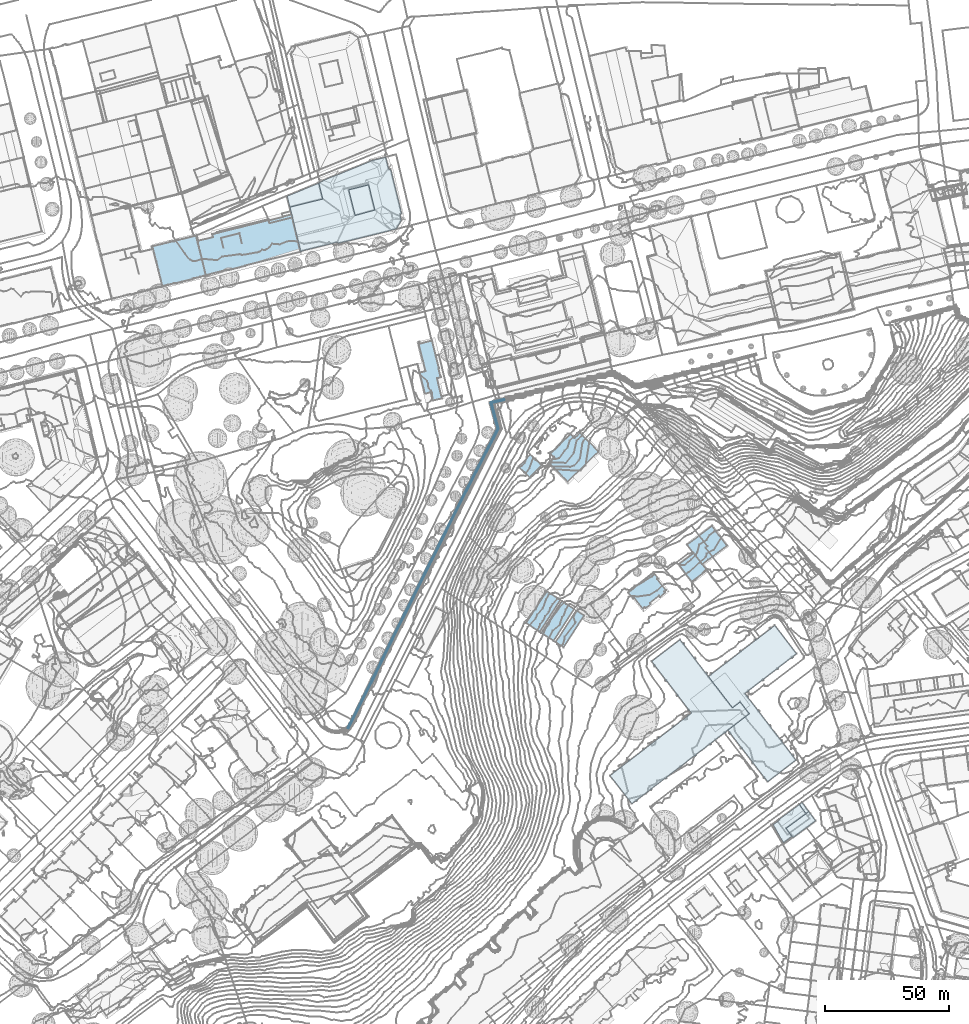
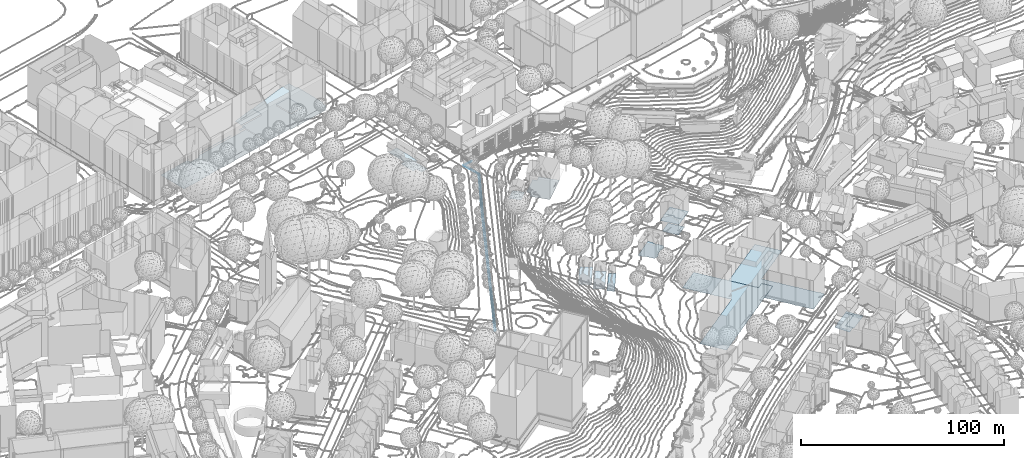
# Not in any storey, part 12 of 477: 16 footings.
"""IFC4 building model written with IfcOpenShell, lengths in metres."""

from ifc_helpers import new_model, si_unit, frame, origin_with_axes, place, context, subcontext, project, spatial, polygons, element, save


model = new_model("IFC4")

# Units and contexts
model_context = context("Model", 3, precision=1e-05, world=origin_with_axes())
body_context = subcontext(model_context, "Body", "Model", "MODEL_VIEW")
ifc_project = project(units=[si_unit("AREAUNIT", "SQUARE_METRE"), si_unit("LENGTHUNIT", "METRE")], contexts=[model_context])

# Sites, building
site_1_placement = place(None, origin_with_axes())
site_1 = spatial("IfcSite", under=ifc_project, at=site_1_placement, Name="Topoexport Site")
site_2_placement = place(site_1_placement, origin_with_axes())
site_2 = spatial("IfcSite", under=site_1, at=site_2_placement, Name="TPX_BUILDINGS")
building_1_placement = place(site_2_placement, frame((211.8297320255, 101.9383160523, 526.7541), z_axis=(0.0, 0.0, 1.0), x_axis=(1.0, 0.0, 0.0)))
building_1 = spatial("IfcBuilding", under=site_2, at=building_1_placement, Name="Building 18", CompositionType="ELEMENT")

# Footing
footing_1_placement = place(None, frame((211.8297320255, 101.9383160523, 526.7541), z_axis=(0.0, 0.0, 1.0), x_axis=(1.0, 0.0, 0.0)))
element("IfcFooting", 1, at=footing_1_placement, inside=building_1, Name="Floor 25", context=body_context, shape_type="Tessellation", body=[
    polygons([(59.6380000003, 116.7041000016, 6.9355), (69.2980000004, 136.0634999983, 6.9355), (60.0820000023, 116.4853000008, 6.9355), (78.887000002, 155.3955000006, 6.9355), (79.3300000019, 155.1757999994, 6.9355), (69.7410000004, 135.8436999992, 6.9355), (86.574000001, 170.8154000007, 6.9355), (41.1750000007, 79.504900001, 6.9354), (50.068, 97.128899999, 6.9355), (41.626000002, 79.3007999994, 6.9354), (50.5109999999, 96.9081999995, 6.9355), (98.7160000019, 210.6893999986, 6.9356), (99.3280000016, 210.3222000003, 6.9356), (101.5769999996, 200.1640000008, 6.9355), (104.3980000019, 211.9921999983, 6.9356), (104.5170000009, 211.5126999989, 6.9356), (102.1030000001, 200.1112999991, 6.9355), (87.0150000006, 170.5927000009, 6.9355), (98.7479999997, 194.5351000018, 6.9355), (99.1889999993, 194.3115000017, 6.9355)], [[[1, 2, 3]], [[4, 5, 6]], [[6, 2, 4]], [[4, 7, 5]], [[2, 6, 3]], [[8, 9, 10]], [[11, 9, 1]], [[1, 3, 11]], [[11, 10, 9]], [[12, 13, 14]], [[15, 16, 13]], [[13, 12, 15]], [[13, 17, 14]], [[18, 5, 7]], [[7, 19, 18]], [[20, 19, 14]], [[14, 17, 20]], [[20, 18, 19]]]),
])

# Building
building_2_placement = place(site_2_placement, frame((424.3367320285, 142.6277160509, 499.4686), z_axis=(0.0, 0.0, 1.0), x_axis=(1.0, 0.0, 0.0)))
building_2 = spatial("IfcBuilding", under=site_2, at=building_2_placement, Name="Building 62", CompositionType="ELEMENT")

# Footing
footing_2_placement = place(None, frame((424.3367320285, 142.6277160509, 499.4686), z_axis=(0.0, 0.0, 1.0), x_axis=(1.0, 0.0, 0.0)))
element("IfcFooting", 2, at=footing_2_placement, inside=building_2, Name="Floor 0", context=body_context, shape_type="Tessellation", body=[
    polygons([(14.3859999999, 5.2675999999, 0.064), (13.2349999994, 4.4258000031, 0.064), (13.379999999, 6.630900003, 0.064), (11.6579999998, 8.9629000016, 0.064), (10.5249999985, 8.1280000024, 0.064), (17.1279999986, 1.5527999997, -0.042), (12.754999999, -1.6932999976, -0.042), (14.3859999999, 5.2675999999, -0.042), (5.186999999, -1.4618999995, -0.042), (7.9599999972, -5.2518999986, -0.042), (6.5159999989, 5.1739000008, 0.006), (12.2349999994, 5.7920000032, 0.006), (5.4739999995, -1.2518999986, 0.0), (13.2339999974, 4.4248000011, 0.006), (4.9789999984, 4.0420000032, 0.006), (9.0339999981, 7.0303000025, 0.006), (10.5249999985, 8.1280000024, 0.006), (8.3029999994, 6.4912, 0.006), (5.8249999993, -4.0233999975, 0.006), (3.3819999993, -0.682599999, 0.006), (5.186999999, -1.4618999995, 0.0), (6.629999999, -3.4335999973, 0.006), (2.6589999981, 1.9590000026, 0.006), (2.4809999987, 2.2012000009, 0.006), (1.8729999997, 1.379900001, 0.006), (1.4049999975, 1.0351999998, 0.005), (0.935999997, 0.6905000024, 0.003), (0.4679999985, 0.3448000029, 0.002), (1.7299999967, -3.0946999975, 0.0), (0.0, 0.0, 0.0), (7.5859999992, -4.740199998, 0.0), (4.1419999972, -7.3172999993, 0.0), (3.4469999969, -6.1659999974, 0.0)], [[[1, 2, 3]], [[2, 4, 3]], [[2, 5, 4]], [[6, 7, 8]], [[9, 8, 7]], [[7, 10, 9]], [[11, 12, 13]], [[13, 12, 14]], [[11, 13, 15]], [[12, 16, 17]], [[12, 18, 16]], [[11, 18, 12]], [[19, 20, 21]], [[21, 22, 19]], [[21, 20, 13]], [[23, 24, 15]], [[23, 20, 25]], [[23, 15, 20]], [[13, 20, 15]], [[25, 20, 26]], [[27, 26, 20]], [[28, 29, 30]], [[27, 29, 28]], [[20, 19, 27]], [[19, 29, 27]], [[31, 19, 22]], [[19, 31, 32]], [[33, 29, 19]], [[19, 32, 33]]]),
])

# Building
building_3_placement = place(site_2_placement, frame((358.6987320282, 162.4100160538, 500.5526), z_axis=(0.0, 0.0, 1.0), x_axis=(1.0, 0.0, 0.0)))
building_3 = spatial("IfcBuilding", under=site_2, at=building_3_placement, Name="Building 90", CompositionType="ELEMENT")

# Footing
footing_3_placement = place(None, frame((358.6987320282, 162.4100160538, 500.5526), z_axis=(0.0, 0.0, 1.0), x_axis=(1.0, 0.0, 0.0)))
element("IfcFooting", 3, at=footing_3_placement, inside=building_3, Name="Floor 0", context=body_context, shape_type="Tessellation", body=[
    polygons([(61.7409999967, -0.8282000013, 0.0319), (62.248999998, -0.9805000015, 0.0319), (62.0029999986, -1.1689999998, 0.0319), (57.4189999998, 4.7919999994, 0.0319), (57.1629999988, 5.125, 0.0319), (57.4089999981, 5.3134000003, 0.0319), (74.8519999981, 6.2372999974, 0.0319), (63.4439999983, -2.5342000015, 0.0319), (73.368999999, 8.1669999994, 0.0319), (61.9869999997, -0.639700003, 0.0319), (57.6649999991, 4.9803999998, 0.0319), (69.0589999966, 13.7713999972, 0.0319), (73.6429999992, 7.8094999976, 0.0319), (48.5279999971, 16.8631999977, 0.032), (48.0209999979, 17.0155999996, 0.032), (48.2659999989, 17.2049999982, 0.032), (48.2829999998, 16.6747999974, 0.032), (53.0989999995, 10.9188999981, 0.032), (52.8369999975, 11.2588, 0.032), (64.4949999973, 19.7088999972, 0.032), (52.8539999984, 10.7294999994, 0.032), (56.0319999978, 24.8475999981, 0.032), (47.4529999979, 18.2626999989, 0.032), (68.8029999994, 14.1044999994, 0.0319), (52.5920000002, 11.0692999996, 0.032), (64.2329999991, 20.0497999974, 0.032), (73.8889999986, 7.998999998, 0.0319), (69.0489999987, 14.2938999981, 0.0319), (73.6149999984, 8.3553999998, 0.0319), (69.3049999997, 13.9608999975, 0.0319), (59.9229999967, 25.6551999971, 0.032), (55.3579999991, 31.5936999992, 0.032), (59.6549999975, 26.0047999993, 0.032), (55.6039999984, 31.7831999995, 0.032), (55.0899999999, 31.9422999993, 0.032), (60.1689999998, 25.8446999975, 0.032), (64.4780000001, 20.2381999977, 0.032), (64.7399999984, 19.8973999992, 0.032), (59.9009999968, 26.1932999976, 0.032), (55.3359999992, 32.1317999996, 0.032), (52.379999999, 29.6044999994, 0.032), (49.2740000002, 27.2206999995, 0.032), (40.9849999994, 40.9129999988, 0.032), (54.2729999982, 33.0047999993, 0.032), (46.5899999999, 45.2215999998, 0.032), (55.3229999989, 33.8125, 0.032), (55.6719999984, 34.0810000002, 0.032), (40.6439999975, 40.6503999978, 0.032), (39.5829999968, 39.8338999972, 0.032), (55.5119999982, 33.566399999, 0.032), (61.2839999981, 38.3954999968, 0.032), (46.9299999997, 45.4833999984, 0.032), (61.4729999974, 38.1493999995, 0.032), (61.6329999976, 38.6639999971, 0.032), (61.8219999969, 38.4178999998, 0.032), (55.8609999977, 33.8348999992, 0.032), (40.4549999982, 40.8963999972, 0.032), (40.7960000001, 41.1590999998, 0.032), (52.5429999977, 49.7997999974, 0.032), (46.4009999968, 45.4676999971, 0.032), (46.7409999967, 45.7294999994, 0.032), (52.3539999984, 50.0458999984, 0.032), (52.8829999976, 50.061499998, 0.032), (67.4100000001, 42.7157999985, 0.032), (67.2209999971, 42.9618999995, 0.032), (67.7509999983, 42.9774999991, 0.032), (67.561999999, 43.2236000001, 0.032), (73.1659999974, 47.5331999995, 0.032), (58.8279999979, 54.6338, 0.032), (73.3549999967, 47.2870999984, 0.032), (73.6949999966, 47.5487999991, 0.032), (73.5059999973, 47.7949000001, 0.032), (64.4239999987, 58.936499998, 0.032), (64.7649999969, 59.1991999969, 0.032), (75.0839999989, 49.0077999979, 0.032), (58.4869999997, 54.3719999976, 0.032), (58.2979999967, 54.6180999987, 0.032), (58.6389999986, 54.8797999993, 0.032), (64.2349999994, 59.182599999, 0.032), (66.3319999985, 60.4032999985, 0.032), (64.5759999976, 59.4442999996, 0.032), (52.6939999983, 50.307599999, 0.032), (33.925999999, 47.1952999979, 0.0), (34.1879999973, 46.8544999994, 0.0), (22.5350000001, 38.422799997, 0.0), (29.6079999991, 53.3241999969, 0.0), (29.8699999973, 52.9824000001, 0.0), (29.623999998, 52.7938999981, 0.0), (29.3619999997, 53.1347000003, 0.0), (17.9679999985, 44.3729999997, 0.0), (16.754999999, 45.9540999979, 0.0), (28.1559999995, 54.7049999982, 0.0), (18.2299999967, 44.0321999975, 0.0), (17.9839999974, 43.8426999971, 0.0), (34.1719999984, 47.3847000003, 0.0), (39.0099999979, 41.0887999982, 0.0), (38.7639999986, 40.8993999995, 0.0), (38.7479999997, 41.4296999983, 0.0), (38.5019999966, 41.2412, 0.0), (27.0999999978, 32.4736000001, 0.0), (22.7960000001, 38.0819999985, 0.0), (31.6600000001, 26.5321999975, 0.0), (27.3619999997, 32.1327999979, 0.0), (31.9219999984, 26.1903999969, 0.0), (27.1159999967, 31.9432999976, 0.0), (34.4339999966, 47.0438999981, 0.0), (22.2889999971, 38.2333999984, 0.0), (17.7219999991, 44.1835999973, 0.0), (22.549999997, 37.8924999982, 0.0), (31.675999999, 26.0018999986, 0.0), (26.8539999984, 32.2850999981, 0.0), (1.737999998, 1.7245999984, 0.0), (1.5869999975, 1.2176999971, 0.0), (1.3979999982, 1.4637999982, 0.0), (31.4139999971, 26.3426999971, 0.0), (19.7899999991, 15.1903999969, 0.0), (19.2599999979, 15.1747999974, 0.0), (19.6009999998, 15.436499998, 0.0), (25.3899999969, 19.4881999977, 0.0), (25.2009999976, 19.7342999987, 0.0), (25.5419999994, 19.9969999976, 0.0), (7.8769999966, 6.0458999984, 0.0), (7.3469999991, 6.0292999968, 0.0), (7.6879999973, 6.2919999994, 0.0), (13.4839999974, 10.3495999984, 0.0), (13.2949999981, 10.5956999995, 0.0), (13.6369999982, 10.8574000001, 0.0), (8.7929999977, -11.4101999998, 0.0), (0.0, 0.0, 0.0), (1.9269999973, 1.4784999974, 0.0), (31.4829999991, 24.556599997, 0.0), (31.6719999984, 24.3104999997, 0.0), (31.1419999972, 24.2949000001, 0.0), (32.737999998, 25.1278999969, 0.0), (40.4329999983, 12.875, 0.0), (40.1629999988, 12.6678999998, 0.0), (49.2740000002, 27.2206999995, 0.0), (46.0409999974, 17.1787, 0.0), (52.379999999, 29.6044999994, 0.0), (56.0319999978, 24.8475999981, 0.0), (31.3310000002, 24.0487999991, 0.0), (34.1499999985, 8.052699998, 0.0), (25.7309999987, 19.75, 0.0), (34.498999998, 8.3202999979, 0.0), (34.3389999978, 7.806599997, 0.0), (28.549999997, 3.753899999, 0.0), (46.3899999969, 17.4463, 0.0), (46.2299999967, 16.932599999, 0.0), (46.5789999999, 17.2010999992, 0.0), (34.6879999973, 8.0751999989, 0.0), (40.3519999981, 12.4217999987, 0.0), (40.6219999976, 12.628899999, 0.0), (16.6519999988, -5.3780000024, 0.0), (13.8259999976, 10.6112999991, 0.0), (22.2599999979, -1.0743000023, 0.0), (19.4489999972, 14.9287, 0.0), (22.6009999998, -0.8125, 0.0), (7.5359999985, 5.7840999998, 0.0), (10.3619999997, -10.2061000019, 0.0), (10.7029999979, -9.9444000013, 0.0), (10.8919999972, -10.1905000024, 0.0), (16.310999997, -5.6407000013, 0.0), (16.8409999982, -5.6240999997, 0.0), (28.2089999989, 3.4921999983, 0.0), (28.7390000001, 3.5077999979, 0.0), (28.3979999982, 3.2460999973, 0.0), (22.7899999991, -1.058600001, 0.0), (10.550999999, -10.452200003, 0.0), (16.5, -5.8868000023, 0.0), (22.4489999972, -1.3203000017, 0.0)], [[[1, 2, 3]], [[4, 5, 6]], [[7, 8, 2]], [[9, 10, 11]], [[2, 1, 10]], [[11, 4, 6]], [[12, 11, 6]], [[13, 2, 10]], [[14, 15, 16]], [[14, 17, 15]], [[18, 19, 20]], [[21, 19, 18]], [[22, 16, 23]], [[19, 14, 22]], [[16, 22, 14]], [[18, 24, 6]], [[21, 25, 19]], [[22, 26, 19]], [[9, 27, 13]], [[11, 12, 9]], [[12, 24, 28]], [[6, 24, 12]], [[18, 20, 24]], [[10, 9, 13]], [[9, 29, 27]], [[28, 30, 12]], [[2, 13, 7]], [[22, 31, 26]], [[32, 33, 22]], [[31, 22, 33]], [[34, 32, 35]], [[19, 26, 20]], [[31, 33, 36]], [[37, 38, 26]], [[36, 33, 39]], [[40, 34, 35]], [[32, 41, 35]], [[38, 20, 26]], [[22, 41, 32]], [[42, 43, 41]], [[44, 45, 46]], [[35, 41, 44]], [[46, 45, 47]], [[48, 42, 49]], [[46, 47, 50]], [[51, 47, 52]], [[53, 54, 55]], [[50, 47, 56]], [[51, 54, 53]], [[43, 42, 48]], [[48, 57, 43]], [[44, 41, 43]], [[43, 57, 58]], [[45, 44, 43]], [[51, 52, 59]], [[52, 60, 61]], [[45, 60, 52]], [[51, 59, 54]], [[47, 45, 52]], [[59, 62, 63]], [[64, 65, 66]], [[67, 66, 65]], [[54, 63, 65]], [[68, 67, 69]], [[70, 68, 71]], [[72, 68, 73]], [[72, 74, 75]], [[71, 68, 72]], [[65, 76, 67]], [[68, 69, 73]], [[76, 69, 67]], [[77, 69, 76]], [[59, 63, 54]], [[77, 78, 69]], [[72, 73, 74]], [[74, 73, 79]], [[80, 75, 74]], [[81, 74, 79]], [[63, 76, 65]], [[82, 63, 62]], [[83, 84, 85]], [[86, 87, 88]], [[89, 90, 91]], [[91, 92, 89]], [[89, 88, 90]], [[93, 88, 83]], [[83, 85, 93]], [[90, 93, 94]], [[93, 90, 88]], [[86, 88, 89]], [[95, 84, 83]], [[96, 97, 98]], [[97, 99, 98]], [[97, 100, 99]], [[101, 84, 99]], [[100, 101, 99]], [[101, 85, 84]], [[97, 102, 103]], [[100, 97, 103]], [[97, 104, 102]], [[103, 105, 100]], [[84, 95, 106]], [[107, 85, 101]], [[90, 94, 108]], [[109, 107, 101]], [[104, 110, 102]], [[100, 105, 111]], [[112, 113, 114]], [[115, 102, 110]], [[116, 117, 118]], [[119, 120, 121]], [[122, 123, 124]], [[125, 126, 127]], [[113, 128, 129]], [[113, 112, 130]], [[131, 132, 133]], [[97, 134, 104]], [[132, 135, 136]], [[134, 137, 138]], [[134, 97, 137]], [[137, 139, 140]], [[134, 135, 132]], [[136, 141, 132]], [[116, 119, 142]], [[121, 143, 119]], [[119, 143, 142]], [[142, 143, 144]], [[141, 136, 144]], [[142, 144, 145]], [[143, 141, 144]], [[116, 142, 146]], [[132, 141, 133]], [[138, 147, 148]], [[135, 134, 138]], [[137, 140, 147]], [[147, 138, 137]], [[147, 149, 148]], [[145, 144, 150]], [[135, 151, 136]], [[152, 151, 135]], [[125, 153, 122]], [[125, 154, 155]], [[125, 127, 154]], [[154, 156, 157]], [[155, 153, 125]], [[122, 158, 123]], [[153, 158, 122]], [[159, 128, 113]], [[130, 158, 160]], [[113, 130, 159]], [[159, 160, 161]], [[159, 130, 160]], [[160, 158, 162]], [[153, 162, 158]], [[163, 162, 153]], [[164, 157, 156]], [[156, 146, 164]], [[146, 165, 164]], [[164, 165, 166]], [[167, 155, 157]], [[168, 159, 161]], [[162, 163, 169]], [[167, 170, 155]], [[155, 154, 157]], [[116, 146, 156]], [[156, 117, 116]]]),
])

# Building
building_4_placement = place(site_2_placement, frame((331.0367320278, 219.7098160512, 508.5819), z_axis=(0.0, 0.0, 1.0), x_axis=(1.0, 0.0, 0.0)))
building_4 = spatial("IfcBuilding", under=site_2, at=building_4_placement, Name="Building 91", CompositionType="ELEMENT")

# Footing
footing_4_placement = place(None, frame((331.0367320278, 219.7098160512, 508.5819), z_axis=(0.0, 0.0, 1.0), x_axis=(1.0, 0.0, 0.0)))
element("IfcFooting", 4, at=footing_4_placement, inside=building_4, Name="Floor 0", context=body_context, shape_type="Tessellation", body=[
    polygons([(8.3099999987, 12.7871000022, 0.0), (10.1079999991, 11.6181000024, 0.0), (0.0, 0.0, 0.0), (13.1989999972, 9.6084000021, 0.0), (1.7980000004, -1.1689999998, 0.0), (4.8889999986, -3.1777999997, 0.0)], [[[1, 2, 3]], [[2, 4, 5]], [[5, 3, 2]], [[4, 6, 5]]]),
])

# Building
building_5_placement = place(site_2_placement, frame((336.8067320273, 215.9607160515, 507.462), z_axis=(0.0, 0.0, 1.0), x_axis=(1.0, 0.0, 0.0)))
building_5 = spatial("IfcBuilding", under=site_2, at=building_5_placement, Name="Building 92", CompositionType="ELEMENT")

# Footing
footing_5_placement = place(None, frame((336.8067320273, 215.9607160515, 507.462), z_axis=(0.0, 0.0, 1.0), x_axis=(1.0, 0.0, 0.0)))
element("IfcFooting", 5, at=footing_5_placement, inside=building_5, Name="Floor 0", context=body_context, shape_type="Tessellation", body=[
    polygons([(3.1429999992, -2.0438999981, 0.0), (1.5850000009, -1.0311999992, 0.0), (11.4519999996, 10.7422000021, 0.0), (0.0, 0.0, 0.0), (9.8939999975, 11.754900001, 0.0), (8.3090000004, 12.7862000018, 0.0)], [[[1, 2, 3]], [[2, 4, 5]], [[3, 2, 5]], [[5, 4, 6]]]),
])

# Building
building_6_placement = place(site_2_placement, frame((324.9327320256, 223.6766160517, 510.9427), z_axis=(0.0, 0.0, 1.0), x_axis=(1.0, 0.0, 0.0)))
building_6 = spatial("IfcBuilding", under=site_2, at=building_6_placement, Name="Building 93", CompositionType="ELEMENT")

# Footing
footing_6_placement = place(None, frame((324.9327320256, 223.6766160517, 510.9427), z_axis=(0.0, 0.0, 1.0), x_axis=(1.0, 0.0, 0.0)))
element("IfcFooting", 6, at=footing_6_placement, inside=building_6, Name="Floor 0", context=body_context, shape_type="Tessellation", body=[
    polygons([(0.0, 0.0, 0.0), (8.3100000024, 12.7871000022, 0.0), (2.1440000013, -1.3925999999, 0.0), (10.4539999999, 11.3935000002, 0.0), (5.4330000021, -3.5313000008, 0.0), (13.7430000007, 9.2558000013, 0.0)], [[[1, 2, 3]], [[3, 4, 5]], [[4, 3, 2]], [[6, 5, 4]]]),
])

# Building
building_7_placement = place(site_2_placement, frame((366.0957320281, 236.0047160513, 506.5151), z_axis=(0.0, 0.0, 1.0), x_axis=(1.0, 0.0, 0.0)))
building_7 = spatial("IfcBuilding", under=site_2, at=building_7_placement, Name="Building 95", CompositionType="ELEMENT")

# Footing
footing_7_placement = place(None, frame((366.0957320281, 236.0047160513, 506.5151), z_axis=(0.0, 0.0, 1.0), x_axis=(1.0, 0.0, 0.0)))
element("IfcFooting", 7, at=footing_7_placement, inside=building_7, Name="Floor 0", context=body_context, shape_type="Tessellation", body=[
    polygons([(2.3599999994, -2.1034999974, 0.0), (1.9459999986, -2.4345999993, 0.0), (0.0, 0.0, 0.0), (0.2569999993, 0.2050999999, 0.0), (6.1889999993, -6.1855999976, 0.0), (5.8429999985, -6.4618999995, 0.0), (6.623999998, -5.8378999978, 0.0), (8.6779999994, -4.1952999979, 0.0), (6.9679999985, -6.2665999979, 0.0), (9.0219999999, -4.625, 0.0), (12.3489999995, -1.2597999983, 0.0), (11.6629999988, 5.3350000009, 0.0), (9.9329999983, 7.9433000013, 0.0), (10.1539999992, 8.1191000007, 0.0), (12.0999999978, 5.6845999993, 0.0), (14.8279999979, -0.0849999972, 0.0), (12.742999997, -1.7520000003, 0.0), (14.4340000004, 0.4072000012, 0.0), (14.7960000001, 0.6963, 0.0), (15.1469999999, 0.9766000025, 0.0)], [[[1, 2, 3]], [[1, 3, 4]], [[1, 5, 6]], [[5, 1, 7]], [[8, 7, 1]], [[9, 8, 10]], [[7, 8, 9]], [[11, 8, 1]], [[4, 12, 1]], [[12, 13, 14]], [[11, 1, 12]], [[12, 14, 15]], [[16, 17, 11]], [[11, 18, 16]], [[12, 19, 18]], [[18, 11, 12]], [[19, 12, 20]], [[4, 13, 12]]]),
])

# Building
building_8_placement = place(site_2_placement, frame((389.7587320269, 255.2674160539, 507.648), z_axis=(0.0, 0.0, 1.0), x_axis=(1.0, 0.0, 0.0)))
building_8 = spatial("IfcBuilding", under=site_2, at=building_8_placement, Name="Building 96", CompositionType="ELEMENT")

# Footing
footing_8_placement = place(None, frame((389.7587320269, 255.2674160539, 507.648), z_axis=(0.0, 0.0, 1.0), x_axis=(1.0, 0.0, 0.0)))
element("IfcFooting", 8, at=footing_8_placement, inside=building_8, Name="Floor 0", context=body_context, shape_type="Tessellation", body=[
    polygons([(0.0, 0.0, 0.0), (0.0540000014, 0.0399999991, 0.0), (2.2520000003, -2.9736000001, 0.0), (2.686999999, -3.3447000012, 0.0), (2.6359999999, -3.380900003, 0.0), (4.9050000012, 3.7089999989, 0.0), (2.5890000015, -3.4180000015, 0.0), (7.436999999, -1.125, 0.0), (3.1349999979, -3.9346000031, 0.0), (8.5309999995, -6.0830000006, 0.0), (6.1270000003, -7.884800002, 0.0), (8.1559999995, -0.5850000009, 0.0), (10.2269999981, -4.8115000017, 0.0)], [[[1, 2, 3]], [[4, 5, 3]], [[6, 4, 3]], [[5, 7, 3]], [[4, 8, 9]], [[10, 11, 9]], [[2, 6, 3]], [[6, 12, 8]], [[10, 9, 8]], [[13, 10, 8]], [[8, 4, 6]]]),
])

# Building
building_9_placement = place(site_2_placement, frame((394.6637320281, 258.9764160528, 507.648), z_axis=(0.0, 0.0, 1.0), x_axis=(1.0, 0.0, 0.0)))
building_9 = spatial("IfcBuilding", under=site_2, at=building_9_placement, Name="Building 97", CompositionType="ELEMENT")

# Footing
footing_9_placement = place(None, frame((394.6637320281, 258.9764160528, 507.648), z_axis=(0.0, 0.0, 1.0), x_axis=(1.0, 0.0, 0.0)))
element("IfcFooting", 9, at=footing_9_placement, inside=building_9, Name="Floor 0", context=body_context, shape_type="Tessellation", body=[
    polygons([(1.9109999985, 1.4510999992, 0.0), (5.0969999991, 3.8691000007, 0.0), (8.1529999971, -0.1640999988, 0.0), (11.1429999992, -4.1103999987, 0.0), (5.3219999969, -8.5205000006, 0.0), (3.2509999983, -4.2939999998, 0.0), (2.5319999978, -4.8339999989, 0.0), (0.0, 0.0, 0.0)], [[[1, 2, 3]], [[3, 4, 5]], [[6, 3, 5]], [[5, 7, 6]], [[8, 1, 6]], [[6, 1, 3]]]),
])

# Building
building_10_placement = place(site_2_placement, frame((386.3977320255, 247.3445160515, 507.147), z_axis=(0.0, 0.0, 1.0), x_axis=(1.0, 0.0, 0.0)))
building_10 = spatial("IfcBuilding", under=site_2, at=building_10_placement, Name="Building 98", CompositionType="ELEMENT")

# Footing
footing_10_placement = place(None, frame((386.3977320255, 247.3445160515, 507.147), z_axis=(0.0, 0.0, 1.0), x_axis=(1.0, 0.0, 0.0)))
element("IfcFooting", 10, at=footing_10_placement, inside=building_10, Name="Floor 0", context=body_context, shape_type="Tessellation", body=[
    polygons([(9.4880000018, 0.0381000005, 0.0), (2.3630000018, -3.1268999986, 0.0), (8.6750000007, 1.1114000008, 0.0), (11.4150000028, -2.2997999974, 0.0), (9.5879999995, 0.1182000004, 0.0), (5.9979999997, 4.5410000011, 0.0), (6.0480000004, 4.5782000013, 0.0), (5.5989999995, 4.9678000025, 0.0), (5.6469999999, 5.004900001, 0.0), (5.9510000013, 4.504900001, 0.0), (0.0, 0.0, 0.0), (5.2630000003, -6.9628999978, 0.0)], [[[1, 2, 3]], [[4, 1, 5]], [[3, 6, 7]], [[6, 8, 9]], [[10, 6, 3]], [[10, 3, 11]], [[8, 6, 10]], [[2, 4, 12]], [[2, 11, 3]], [[2, 1, 4]]]),
])

# Building
building_11_placement = place(site_2_placement, frame((281.5977320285, 336.7850160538, 537.4764), z_axis=(0.0, 0.0, 1.0), x_axis=(1.0, 0.0, 0.0)))
building_11 = spatial("IfcBuilding", under=site_2, at=building_11_placement, Name="Building 100", CompositionType="ELEMENT")

# Footing
footing_11_placement = place(None, frame((281.5977320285, 336.7850160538, 537.4764), z_axis=(0.0, 0.0, 1.0), x_axis=(1.0, 0.0, 0.0)))
element("IfcFooting", 11, at=footing_11_placement, inside=building_11, Name="Floor 0", context=body_context, shape_type="Tessellation", body=[
    polygons([(5.799999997, -23.5655000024, -0.0001), (4.9839999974, -20.193400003, -0.0001), (9.5009999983, -22.6465000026, -0.0001), (0.5489999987, -12.2745000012, -0.0001), (2.6399999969, -20.7715000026, -0.0001), (2.879999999, -11.7002000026, -0.0001), (7.5019999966, -14.5274000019, -0.0001), (9.1529999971, -14.121100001, -0.0001), (8.9499999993, -14.005900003, -0.0001), (9.1149999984, -13.9659000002, -0.0001), (5.5299999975, 0.6004999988, 0.0), (0.0, 0.0, 0.0), (0.612999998, -0.6094000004, 0.0), (0.436999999, 0.1074000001, 0.0), (8.0949999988, -10.5293000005, -0.0001), (8.2589999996, -10.4893000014, -0.0001)], [[[1, 2, 3]], [[4, 2, 5]], [[2, 6, 7]], [[2, 7, 3]], [[8, 9, 10]], [[7, 9, 8]], [[6, 2, 4]], [[6, 11, 7]], [[12, 13, 6]], [[13, 12, 14]], [[13, 11, 6]], [[15, 11, 16]], [[15, 9, 7]], [[7, 11, 15]]]),
])

# Building
building_12_placement = place(site_2_placement, frame((334.3647320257, 288.1229160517, 521.6208), z_axis=(0.0, 0.0, 1.0), x_axis=(1.0, 0.0, 0.0)))
building_12 = spatial("IfcBuilding", under=site_2, at=building_12_placement, Name="Building 101", CompositionType="ELEMENT")

# Footing
footing_12_placement = place(None, frame((334.3647320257, 288.1229160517, 521.6208), z_axis=(0.0, 0.0, 1.0), x_axis=(1.0, 0.0, 0.0)))
element("IfcFooting", 12, at=footing_12_placement, inside=building_12, Name="Floor 0", context=body_context, shape_type="Tessellation", body=[
    polygons([(15.0030000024, 9.4843000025, 0.0), (19.6040000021, 4.7998000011, -0.0001), (4.9189999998, -5.0293000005, -0.0001), (12.4539999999, 12.0800000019, 0.0), (0.0, 0.0, 0.0), (12.3450000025, 12.1904000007, 0.0), (10.1410000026, 10.0252999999, 0.0), (5.5510000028, 8.8242000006, 0.0), (9.7870000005, 10.3857000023, 0.0), (8.4849999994, 11.7118999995, 0.0), (2.0670000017, 2.0810000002, 0.0), (19.7280000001, 4.6728000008, -0.0001), (2.3610000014, -2.4131000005, 0.0), (7.3359999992, -7.4990999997, -0.0001), (3.1440000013, 6.4550000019, 0.0), (1.5490000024, 2.6093000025, 0.0), (0.4150000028, 3.7675000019, 0.0)], [[[1, 2, 3]], [[4, 1, 5]], [[6, 4, 7]], [[7, 8, 9]], [[8, 10, 9]], [[4, 5, 7]], [[11, 8, 7]], [[2, 12, 3]], [[13, 1, 3]], [[1, 13, 5]], [[12, 14, 3]], [[15, 16, 17]], [[8, 16, 15]], [[11, 16, 8]], [[11, 7, 5]]]),
])

# Building
building_13_placement = place(site_2_placement, frame((321.8457320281, 286.6092160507, 525.7514), z_axis=(0.0, 0.0, 1.0), x_axis=(1.0, 0.0, 0.0)))
building_13 = spatial("IfcBuilding", under=site_2, at=building_13_placement, Name="Building 102", CompositionType="ELEMENT")

# Footing
footing_13_placement = place(None, frame((321.8457320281, 286.6092160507, 525.7514), z_axis=(0.0, 0.0, 1.0), x_axis=(1.0, 0.0, 0.0)))
element("IfcFooting", 13, at=footing_13_placement, inside=building_13, Name="Floor 0", context=body_context, shape_type="Tessellation", body=[
    polygons([(9.254999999, 0.5937000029, 0.0), (4.4759999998, -4.3046999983, 0.0), (7.0059999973, 2.7568000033, 0.0), (2.4149999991, -2.3222999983, 0.0), (4.7419999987, 4.9326000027, 0.0), (0.0, 0.0, 0.0)], [[[1, 2, 3]], [[2, 4, 3]], [[5, 3, 4]], [[4, 6, 5]]]),
])

# Building
building_14_placement = place(site_2_placement, frame((228.7347320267, 395.6180160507, 538.6455), z_axis=(0.0, 0.0, 1.0), x_axis=(1.0, 0.0, 0.0)))
building_14 = spatial("IfcBuilding", under=site_2, at=building_14_placement, Name="Building 199", CompositionType="ELEMENT")

# Footing
footing_14_placement = place(None, frame((228.7347320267, 395.6180160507, 538.6455), z_axis=(0.0, 0.0, 1.0), x_axis=(1.0, 0.0, 0.0)))
element("IfcFooting", 14, at=footing_14_placement, inside=building_14, Name="Floor 0", context=body_context, shape_type="Tessellation", body=[
    polygons([(1.1110000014, -4.4423999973, 0.0), (1.4510000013, -6.2812999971, -0.0001), (1.436999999, -6.2275999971, -0.0001), (0.0, 0.0, 0.0), (1.943, -7.923899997, -0.0001), (12.7360000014, 5.2226000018, 0.0), (12.7609999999, 5.0957000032, 0.0), (14.3409999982, -1.1757999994, 0.0), (32.8029999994, 4.5224000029, -0.163), (35.2960000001, -5.6269999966, -0.1632), (24.7540000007, 2.5117000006, -0.163), (27.3429999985, -7.7919999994, -0.1632), (45.875, -9.3886999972, -0.6581), (41.7179999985, -13.7480999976, -0.6581), (45.7699999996, -8.9706999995, -0.6581), (45.5830000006, -8.2167999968, -0.6581), (20.3409999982, -18.5625, -0.6581), (45.432, -7.6074999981, -0.6581), (27.3429999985, -7.7919999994, -0.6581), (45.5789999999, -7.5781999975, -0.6581), (45.5009999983, -7.2392999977, -0.6581), (43.6389999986, -13.2792999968, -0.6581), (44.7459999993, -11.8320999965, -0.6581), (43.8099999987, -13.3740999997, -0.6581), (43.5269999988, -13.3066999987, -0.6581), (45.9140000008, -9.5478999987, -0.6581), (46.074000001, -9.6445999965, -0.6581), (43.3740000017, -13.3447999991, -0.6581), (42.9640000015, -13.4443999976, -0.6581), (35.2960000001, -5.6269999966, -0.6581), (41.7010000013, 10.7568000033, -0.658), (46.0969999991, -7.0956999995, -0.6581), (32.8029999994, 4.5224000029, -0.658), (41.0969999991, 10.6133000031, -0.658), (40.8720000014, 10.9052000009, -0.658), (41.0150000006, 10.9521000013, -0.658), (40.7969999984, 11.2109000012, -0.658), (22.6240000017, 9.5371000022, -0.6579), (40.4200000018, 12.7412, -0.658), (40.745000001, 11.4199000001, -0.658), (39.3669999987, 15.5918000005, -0.658), (39.6970000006, 15.6728000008, -0.658), (33.7459999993, 14.1084000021, -0.6579), (33.7239999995, 14.2002000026, -0.6579), (34.006000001, 14.2695000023, -0.6579), (41.7430000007, -13.8838, -0.6581), (20.4659999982, -19.0888999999, -0.6581), (19.8630000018, -18.6809, -0.6581), (19.8471000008, -18.684799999, -0.6581), (2.6319999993, -10.807599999, -0.6581), (14.3409999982, -1.1757999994, -0.658), (3.9670000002, -16.4013999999, -0.6581), (24.7540000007, 2.5117000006, -0.658), (5.686999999, -22.1630999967, -0.6581), (5.0789999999, -21.0566999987, -0.6581), (16.0890000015, -19.6074999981, -0.6581), (5.4219999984, -22.4912, -0.6581), (5.743999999, -22.4120999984, -0.6581), (1.1110000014, -4.4423999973, -0.6579), (3.3779999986, -13.9375, -0.6581), (3.8020000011, -15.7118999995, -0.6581), (21.1499999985, 8.9306000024, -0.6579), (20.0040000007, 8.4599000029, -0.6579), (14.3020000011, 6.0175999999, -0.6579), (21.9149999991, 9.2451000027, -0.6579), (32.6750000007, 13.6689000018, -0.6579), (13.1319999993, 5.5293000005, -0.6579), (12.7609999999, 5.0957000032, -0.6579), (12.7109999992, 5.3545000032, -0.6579), (14.2630000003, 6.2158000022, -0.6579), (19.9609999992, 8.5508000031, -0.6579)], [[[1, 2, 3]], [[3, 4, 1]], [[2, 1, 5]], [[6, 7, 4]], [[1, 7, 8]], [[1, 4, 7]], [[9, 10, 11]], [[12, 11, 10]], [[13, 14, 15]], [[16, 15, 17]], [[18, 16, 19]], [[20, 18, 21]], [[22, 23, 24]], [[25, 23, 22]], [[26, 23, 14]], [[26, 27, 23]], [[23, 25, 28]], [[23, 28, 29]], [[14, 23, 29]], [[14, 13, 26]], [[17, 15, 14]], [[18, 30, 21]], [[30, 31, 32]], [[31, 33, 34]], [[34, 35, 36]], [[33, 35, 34]], [[32, 21, 30]], [[37, 35, 38]], [[39, 40, 38]], [[38, 40, 37]], [[39, 41, 42]], [[39, 43, 41]], [[43, 44, 45]], [[45, 41, 43]], [[46, 47, 14]], [[19, 16, 17]], [[48, 49, 17]], [[19, 30, 18]], [[50, 51, 19]], [[52, 19, 49]], [[49, 19, 17]], [[19, 51, 53]], [[47, 17, 14]], [[54, 55, 56]], [[57, 54, 58]], [[57, 55, 54]], [[51, 50, 59]], [[60, 50, 19]], [[19, 61, 60]], [[61, 19, 52]], [[55, 52, 56]], [[49, 56, 52]], [[33, 53, 38]], [[30, 33, 31]], [[62, 53, 63]], [[64, 63, 53]], [[53, 62, 65]], [[66, 39, 38]], [[39, 66, 43]], [[38, 53, 65]], [[35, 33, 38]], [[67, 68, 69]], [[64, 68, 67]], [[70, 71, 64]], [[63, 64, 71]], [[64, 53, 68]], [[51, 68, 53]]]),
])

# Building
building_15_placement = place(site_2_placement, frame((192.1757320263, 379.5145160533, 538.5554), z_axis=(0.0, 0.0, 1.0), x_axis=(1.0, 0.0, 0.0)))
building_15 = spatial("IfcBuilding", under=site_2, at=building_15_placement, Name="Building 229", CompositionType="ELEMENT")

# Footing
footing_15_placement = place(None, frame((192.1757320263, 379.5145160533, 538.5554), z_axis=(0.0, 0.0, 1.0), x_axis=(1.0, 0.0, 0.0)))
element("IfcFooting", 15, at=footing_15_placement, inside=building_15, Name="Floor 0", context=body_context, shape_type="Tessellation", body=[
    polygons([(0.8410000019, -1.9375, -0.9389), (1.8319999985, -7.3956000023, -0.9389), (0.2219999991, -0.8955000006, -0.9389), (0.5670000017, -0.808600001, -0.9389), (4.2919999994, -15.683600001, -0.9389), (3.9620000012, -15.9922000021, -0.9389), (6.4389999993, 0.6464000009, -0.9389), (6.5610000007, 0.6952999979, -0.9389), (6.7259999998, -0.5030000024, -0.9389), (39.936999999, 2.1659999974, -0.939), (19.6649999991, -11.9814999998, -0.939), (11.9180000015, -13.8038000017, -0.939), (4.3449999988, -15.8975000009, -0.9389), (12.7970000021, -13.7930000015, -0.939), (12.7780000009, -13.7002000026, -0.939), (19.6889999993, -12.0868999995, -0.939), (11.9349999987, -13.9004000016, -0.939), (29.2349999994, 6.1952999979, -0.9389), (34.8520000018, 7.5946999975, -0.9389), (20.4829999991, -11.683600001, -0.939), (38.3819999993, 8.6805999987, -0.9389), (34.8090000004, 7.7840999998, -0.9389), (41.6380000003, -4.9532000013, -0.939), (36.9420000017, -7.6289000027, -0.939), (20.504999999, -11.7919999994, -0.939), (41.9809999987, -6.3877000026, -0.939), (29.1900000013, 6.373999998, -0.9389), (38.3509999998, 8.6717999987, 0.0), (34.8090000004, 7.7840999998, 0.0), (37.993999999, 9.875, 0.0), (34.5139999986, 9.0887999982, 0.0), (29.1900000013, 6.373999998, 0.0), (6.5610000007, 0.6952999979, 0.0), (29.0920000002, 6.7674999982, 0.0), (9.6050000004, 1.9208000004, 0.0), (39.2149999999, 5.4384000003, 0.0), (39.1590000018, 5.4237999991, 0.0), (38.7160000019, 7.4463, 0.0), (38.5159999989, 8.120099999, 0.0), (0.5670000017, -0.808600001, 0.0), (0.0, 0.0, 0.0), (0.3489999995, 0.0878999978, 0.0), (0.2219999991, -0.8955000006, 0.0)], [[[1, 2, 3]], [[3, 4, 1]], [[5, 6, 2]], [[7, 8, 9]], [[9, 2, 1]], [[9, 10, 2]], [[11, 12, 2]], [[5, 13, 6]], [[14, 15, 11]], [[14, 11, 16]], [[15, 12, 11]], [[17, 12, 15]], [[2, 12, 5]], [[8, 18, 9]], [[9, 18, 10]], [[18, 19, 10]], [[2, 10, 20]], [[20, 11, 2]], [[21, 19, 22]], [[19, 21, 10]], [[10, 23, 24]], [[11, 20, 25]], [[23, 26, 24]], [[10, 24, 20]], [[8, 27, 18]], [[28, 29, 30]], [[31, 30, 29]], [[32, 33, 34]], [[35, 34, 33]], [[36, 37, 38]], [[39, 38, 37]], [[40, 41, 42]], [[41, 40, 43]]]),
])

# Building
building_16_placement = place(site_2_placement, frame((174.5787320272, 375.3924160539, 537.4785), z_axis=(0.0, 0.0, 1.0), x_axis=(1.0, 0.0, 0.0)))
building_16 = spatial("IfcBuilding", under=site_2, at=building_16_placement, Name="Building 231", CompositionType="ELEMENT")

# Footing
footing_16_placement = place(None, frame((174.5787320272, 375.3924160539, 537.4785), z_axis=(0.0, 0.0, 1.0), x_axis=(1.0, 0.0, 0.0)))
element("IfcFooting", 16, at=footing_16_placement, inside=building_16, Name="Floor 0", context=body_context, shape_type="Tessellation", body=[
    polygons([(0.3849999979, 0.0986000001, 0.0), (0.3969999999, 0.0507999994, 0.0), (0.0, 0.0, 0.0), (0.2809999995, -1.1045000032, 0.0), (1.5749999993, -6.2988000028, 0.0), (6.9699999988, 1.6620999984, 0.0), (2.4510000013, -9.818400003, 0.0), (8.2049999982, 1.748999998, 0.0), (6.9459999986, 1.7645999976, 0.0), (8.1479999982, 2.0673999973, 0.0), (9.3319999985, -14.8360000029, 0.0), (8.7690000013, -14.9004000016, 0.0), (11.8819999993, -14.3125, 0.0), (13.6970000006, -13.8633000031, 0.0), (7.4479999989, -15.2314999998, 0.0), (4.9620000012, -15.8555000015, 0.0), (6.3159999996, -15.5078000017, 0.0), (6.3350000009, -15.5800999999, 0.0), (4.4479999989, -16.0469000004, 0.0), (4.4800000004, -16.1475000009, 0.0), (4.0529999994, -16.2578000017, 0.0), (4.9749999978, -15.9160000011, 0.0), (8.7859999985, -14.9707000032, 0.0), (9.3709999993, -14.9912, 0.0), (11.8640000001, -14.3740000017, 0.0), (7.4659999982, -15.2979000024, 0.0), (9.5449999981, 2.0780999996, 0.0), (10.6730000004, 2.5643999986, 0.0), (19.0960000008, -1.9277000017, 0.0), (9.4670000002, 2.375, 0.0), (16.686999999, -12.9209000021, 0.0), (20.8099999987, -8.8496000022, 0.0), (18.0549999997, -12.5820000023, 0.0), (19.9679999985, -5.4502000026, 0.0), (19.1519999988, -12.3106000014, 0.0), (20.5309999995, -11.9688000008, 0.0), (18.0819999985, -12.688500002, 0.0), (10.6440000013, 2.6699000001, 0.0), (17.5500000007, 4.3104999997, 0.0), (17.2129999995, 4.1679999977, 0.0), (17.1999999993, 4.2206999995, 0.0), (18.2819999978, 1.3583999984, 0.0), (20.938000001, -11.9209000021, 0.0), (16.7139999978, -13.0274000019, 0.0), (16.2089999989, -13.1524000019, 0.0), (13.7369999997, -13.9004000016, 0.0), (16.2399999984, -13.2793000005, 0.0), (20.5579999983, -12.0752000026, 0.0), (20.9519999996, -11.9776000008, 0.0), (21.5590000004, -11.8701000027, 0.0), (21.074000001, -11.9902000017, 0.0), (21.0500000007, -11.8925999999, 0.0), (19.1779999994, -12.4180000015, 0.0)], [[[1, 2, 3]], [[2, 4, 3]], [[5, 4, 6]], [[7, 5, 8]], [[4, 2, 6]], [[9, 10, 6]], [[8, 5, 6]], [[11, 12, 7]], [[6, 10, 8]], [[13, 7, 8]], [[8, 14, 13]], [[12, 15, 7]], [[16, 7, 17]], [[17, 15, 18]], [[19, 20, 21]], [[21, 7, 19]], [[16, 22, 19]], [[19, 7, 16]], [[12, 11, 23]], [[24, 11, 25]], [[25, 11, 13]], [[7, 13, 11]], [[26, 18, 15]], [[7, 15, 17]], [[27, 28, 29]], [[27, 30, 28]], [[31, 32, 33]], [[14, 27, 34]], [[33, 32, 35]], [[32, 36, 35]], [[35, 37, 33]], [[30, 38, 28]], [[39, 40, 41]], [[39, 42, 40]], [[27, 29, 34]], [[32, 31, 34]], [[42, 29, 28]], [[42, 28, 40]], [[32, 43, 36]], [[44, 45, 31]], [[14, 45, 46]], [[47, 46, 45]], [[45, 14, 34]], [[34, 31, 45]], [[43, 48, 36]], [[49, 48, 43]], [[50, 51, 52]], [[32, 50, 52]], [[35, 53, 37]], [[52, 43, 32]], [[14, 8, 27]]]),
])

save(model, "model.ifc")
